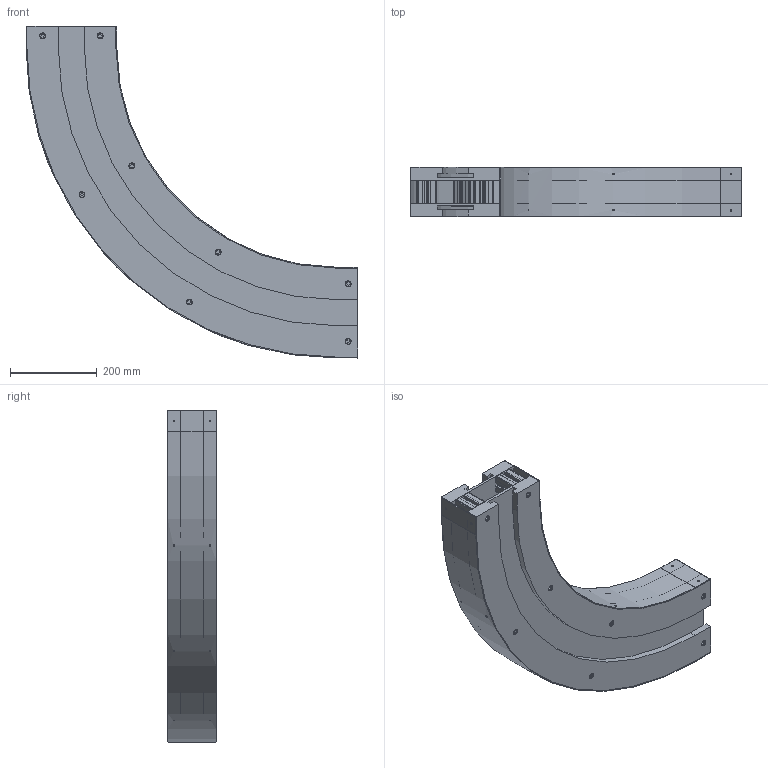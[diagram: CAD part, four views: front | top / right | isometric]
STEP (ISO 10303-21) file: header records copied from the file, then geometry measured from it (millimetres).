
FILE_DESCRIPTION (( 'STEP AP214' ), '1' );
FILE_NAME ('2000.750.490.STEP', '2016-07-05T07:04:01', ( '' ), ( '' ), 'SwSTEP 2.0', 'SolidWorks 2016', '' );
FILE_SCHEMA (( 'AUTOMOTIVE_DESIGN' ));
Length unit declared in the file: millimetre
Products named in the file (6): 2000.001.401_Default<Lavorato>; 2000.750.404_2000.750.404; 2000.750.490; 2000.750.491_MONTAGGIO; 084.301.000 VITI ALUSIC_084.301.013; 2000.750.492_MONTAGGIO
Assembly tree (28 placements, depth 2):
  2000.750.490
    2000.750.404_2000.750.404  x2
    2000.001.401_Default<Lavorato>  x8
    084.301.000 VITI ALUSIC_084.301.013  x16
    2000.750.491_MONTAGGIO
    2000.750.492_MONTAGGIO
Bounding box: 764.5 x 113 x 764.5 mm (x, y, z)
Volume: 10280006.6 mm3; surface area: 1972785.5 mm2
Topology: 28 solids, 28 shells, 1260 faces, 3388 edges, 2232 vertices
Faces by surface type: plane 800, cylinder 376, cone 32, torus 32, bspline 20
Entity records: 11488 total; most frequent: CARTESIAN_POINT 4643, ORIENTED_EDGE 1352, DIRECTION 1340, EDGE_CURVE 676, AXIS2_PLACEMENT_3D 461, VERTEX_POINT 444, VECTOR 418, LINE 418
